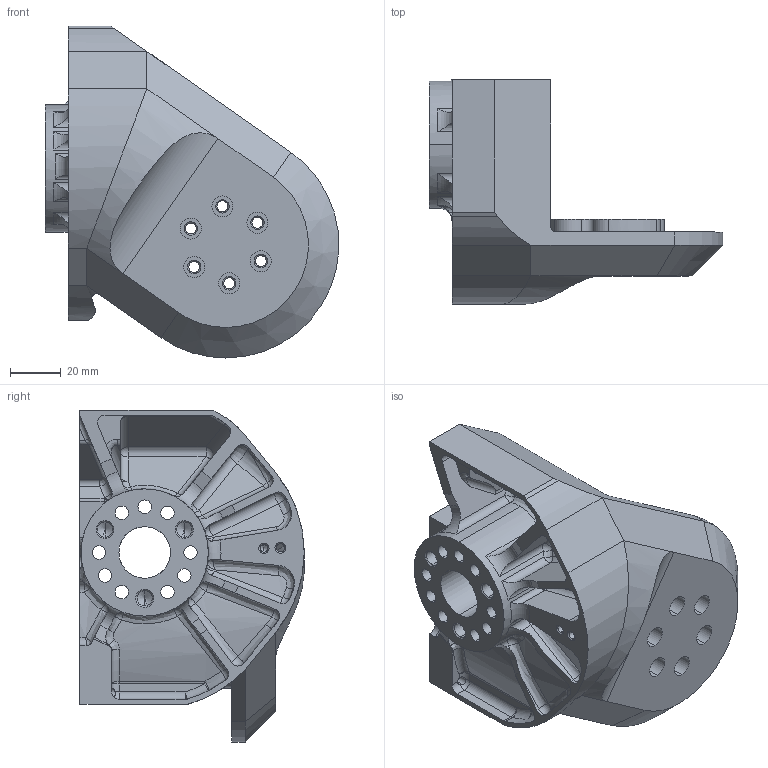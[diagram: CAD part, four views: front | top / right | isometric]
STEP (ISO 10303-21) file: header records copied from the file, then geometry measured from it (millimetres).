
FILE_DESCRIPTION((''),'2;1');
FILE_NAME('KD-D-102L_L_HIP_YOKE_DRIVE_1','2025-07-12T15:25:20',('Administrator'),(''),'CREO PARAMETRIC BY PTC INC, 2022073','CREO PARAMETRIC BY PTC INC, 2022073','');
FILE_SCHEMA(('CONFIG_CONTROL_DESIGN'));
Length unit declared in the file: millimetre
Products named in the file (1): KD-D-102L_L_HIP_YOKE_DRIVE_1
Bounding box: 115.41 x 88.2 x 130.47 mm (x, y, z)
Volume: 136324.6 mm3; surface area: 69950.9 mm2
Topology: 1 solids, 2 shells, 575 faces, 1551 edges, 925 vertices
Faces by surface type: cylinder 236, bspline 119, plane 86, cone 68, sphere 40, torus 24, extrusion 2
Entity records: 21189 total; most frequent: CARTESIAN_POINT 7888, ORIENTED_EDGE 2960, DIRECTION 2561, EDGE_CURVE 1480, AXIS2_PLACEMENT_3D 1037, VERTEX_POINT 925, EDGE_LOOP 631, CIRCLE 583
